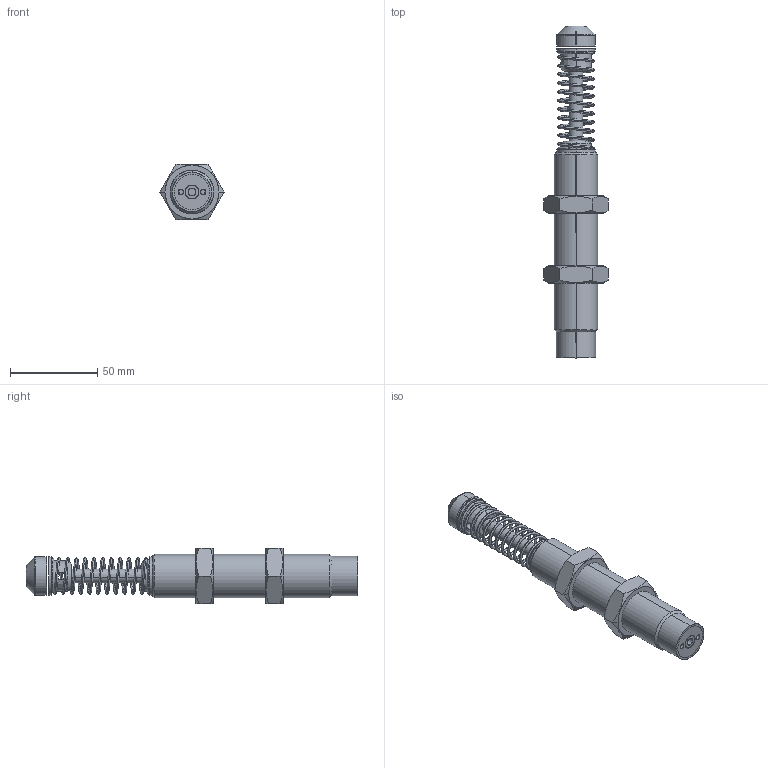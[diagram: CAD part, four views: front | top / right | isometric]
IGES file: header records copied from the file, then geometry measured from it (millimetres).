
Start section: SolidWorks IGES file using analytic representation for surfaces
Global section: file name: Y:\CAD\HP梡CAD僨乕僞\210305_HP峏怴梡\3D\FK-2540-R.IGS; native system: SolidWorks 2021; preprocessor: SolidWorks 2021; author: flgijutsu; date: 210310.161301; units: millimetre
Bounding box: 36.95 x 190.5 x 32 mm (x, y, z)
Surface area: 22053.2 mm2 (no closed solid volume)
Topology: 0 solids, 0 shells, 91 faces, 1924 edges, 1924 vertices
Faces by surface type: revolution 48, bspline 43
